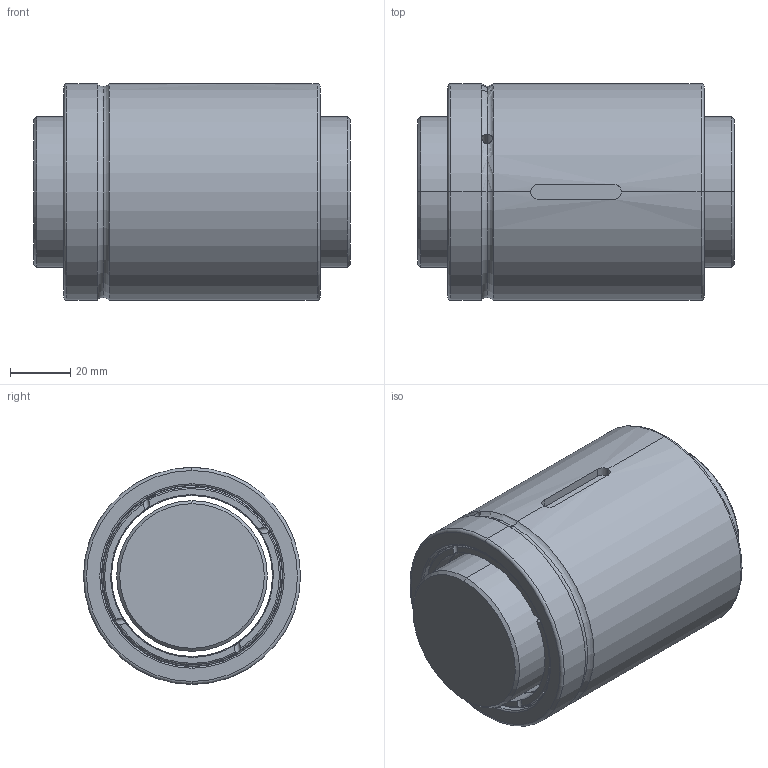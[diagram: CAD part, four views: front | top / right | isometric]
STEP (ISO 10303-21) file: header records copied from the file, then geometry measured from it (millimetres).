
FILE_DESCRIPTION (( 'STEP AP203' ), '1' );
FILE_NAME ('SCIR05010T4-C.STEP', '2020-06-17T07:41:22', ( '' ), ( '' ), 'SwSTEP 2.0', 'SolidWorks 2013', '' );
FILE_SCHEMA (( 'CONFIG_CONTROL_DESIGN' ));
Length unit declared in the file: millimetre
Products named in the file (1): SCIR05010T4-C
Bounding box: 105 x 72 x 72 mm (x, y, z)
Volume: 357955.7 mm3; surface area: 62602.7 mm2
Topology: 2 solids, 2 shells, 96 faces, 226 edges, 137 vertices
Faces by surface type: cylinder 43, torus 30, plane 19, cone 4
Entity records: 3299 total; most frequent: CARTESIAN_POINT 1006, DIRECTION 496, ORIENTED_EDGE 452, EDGE_CURVE 226, AXIS2_PLACEMENT_3D 221, VERTEX_POINT 137, CIRCLE 124, EDGE_LOOP 103
